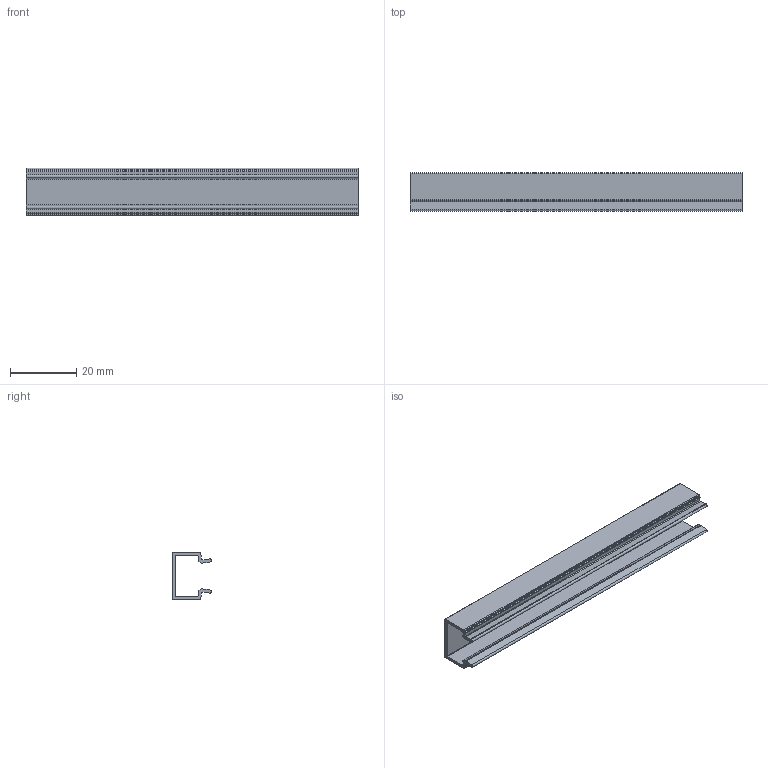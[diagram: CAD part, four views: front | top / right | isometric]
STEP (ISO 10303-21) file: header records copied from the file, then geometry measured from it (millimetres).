
FILE_DESCRIPTION(/* description */ ('Mini Cover for LED Rails square'),/* implementation_level */ '2;1');
FILE_NAME(/* name */ 'C:\Users\tomaszw\Desktop\MOOV pliki\pliki 3ds\PA-OSMLGLAXMK-00.stp',/* time_stamp */ '2018-01-09T14:47:15+01:00',/* author */ ('tomaszw'),/* organization */ (''),/* preprocessor_version */ 'ST-DEVELOPER v16.1',/* originating_system */ 'Autodesk Inventor 2016',/* authorisation */ '');
FILE_SCHEMA (('CONFIG_CONTROL_DESIGN'));
Length unit declared in the file: millimetre
Products named in the file (1): Mini Cover for LED Rails Kwadratowy
Bounding box: 100 x 11.69 x 14.24 mm (x, y, z)
Volume: 3597.2 mm3; surface area: 8064.7 mm2
Topology: 1 solids, 1 shells, 52 faces, 150 edges, 100 vertices
Faces by surface type: plane 28, cylinder 24
Entity records: 1746 total; most frequent: DIRECTION 304, CARTESIAN_POINT 303, ORIENTED_EDGE 300, EDGE_CURVE 150, LINE 102, VECTOR 102, AXIS2_PLACEMENT_3D 101, VERTEX_POINT 100
